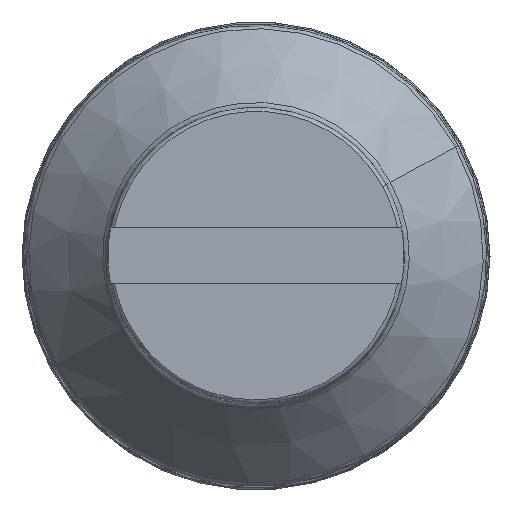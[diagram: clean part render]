
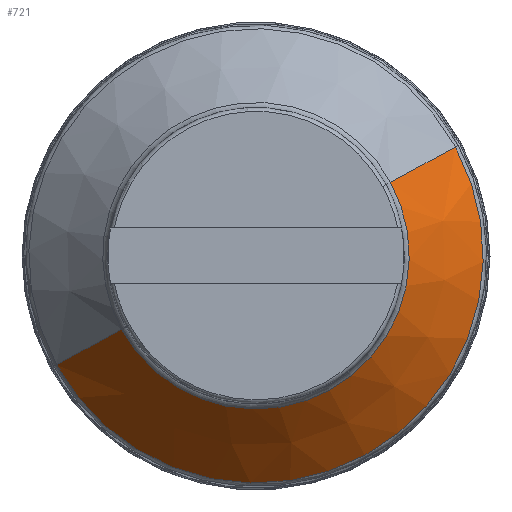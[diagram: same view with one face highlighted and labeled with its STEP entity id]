
A CAD part, top view. The second image highlights one B-rep face of the part: STEP entity #721.
In plain terms, the highlighted conical face has half-angle 40.735 degrees and reference radius 42.5 mm.
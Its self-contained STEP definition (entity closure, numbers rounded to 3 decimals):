
#703=AXIS2_PLACEMENT_3D('Cone Axis2P3D',#700,#701,#702) ;
#707=AXIS2_PLACEMENT_3D('Circle Axis2P3D',#705,#706,$) ;
#712=AXIS2_PLACEMENT_3D('Circle Axis2P3D',#710,#711,$) ;
#657=CARTESIAN_POINT('Line Origine',(-286358.192,-156438.193,-378857.984)) ;
#661=CARTESIAN_POINT('Vertex',(-57.183,-31.239,-42.312)) ;
#663=CARTESIAN_POINT('Vertex',(-38.573,-21.072,-17.688)) ;
#677=CARTESIAN_POINT('Vertex',(38.573,21.072,-17.688)) ;
#680=CARTESIAN_POINT('Line Origine',(286358.192,156438.193,-378857.984)) ;
#684=CARTESIAN_POINT('Vertex',(57.183,31.239,-42.312)) ;
#700=CARTESIAN_POINT('Axis2P3D Location',(0.,0.,-16.)) ;
#705=CARTESIAN_POINT('Axis2P3D Location',(0.,0.,-17.688)) ;
#710=CARTESIAN_POINT('Axis2P3D Location',(0.,0.,-42.312)) ;
#658=DIRECTION('Vector Direction',(-0.573,-0.313,-0.758)) ;
#681=DIRECTION('Vector Direction',(0.573,0.313,-0.758)) ;
#701=DIRECTION('Axis2P3D Direction',(-0.,-0.,-1.)) ;
#702=DIRECTION('Axis2P3D XDirection',(0.878,0.479,0.)) ;
#706=DIRECTION('Axis2P3D Direction',(0.,0.,-1.)) ;
#711=DIRECTION('Axis2P3D Direction',(0.,0.,-1.)) ;
#659=VECTOR('Line Direction',#658,1.) ;
#682=VECTOR('Line Direction',#681,1.) ;
#716=ORIENTED_EDGE('',*,*,#686,.T.) ;
#717=ORIENTED_EDGE('',*,*,#709,.T.) ;
#718=ORIENTED_EDGE('',*,*,#665,.F.) ;
#719=ORIENTED_EDGE('',*,*,#714,.T.) ;
#721=ADVANCED_FACE('NOCUT',(#720),#704,.T.) ;
#708=CIRCLE('generated circle',#707,43.954) ;
#713=CIRCLE('generated circle',#712,65.16) ;
#704=CONICAL_SURFACE('Cone',#703,42.5,0.711) ;
#665=EDGE_CURVE('',#662,#664,#660,.F.) ;
#686=EDGE_CURVE('',#685,#678,#683,.F.) ;
#709=EDGE_CURVE('',#678,#664,#708,.T.) ;
#714=EDGE_CURVE('',#662,#685,#713,.F.) ;
#715=EDGE_LOOP('',(#716,#717,#718,#719)) ;
#720=FACE_OUTER_BOUND('',#715,.T.) ;
#660=LINE('Line',#657,#659) ;
#683=LINE('Line',#680,#682) ;
#662=VERTEX_POINT('',#661) ;
#664=VERTEX_POINT('',#663) ;
#678=VERTEX_POINT('',#677) ;
#685=VERTEX_POINT('',#684) ;
